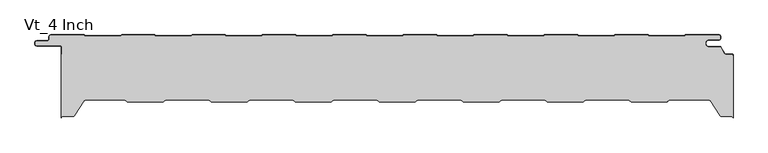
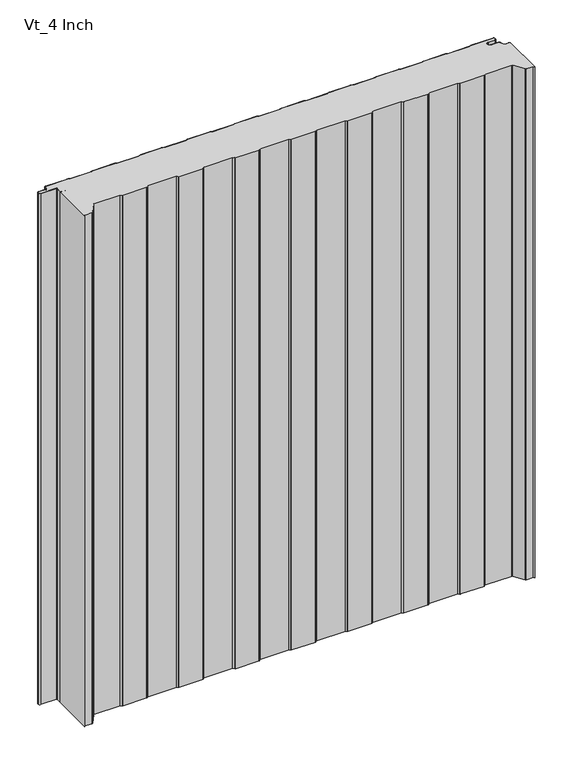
"""IFC4 building model written with IfcOpenShell, lengths in millimetres: plate geometry, KIP_R19_CP_KingSeam_Vt_Roof Panel : Vt_4 Inch."""

from ifc_helpers import new_model, si_unit, point, frame_2d, origin, origin_with_axes, place, context, project, spatial, polyline, circle_curve, trimmed, segment, composite_curve, outline, extrude, source, transform, mapped, element, save


def vt_4_inch_8830481b(model_context):
    return source(origin(), model_context, "Body", "SweptSolid", [
        extrude(outline(composite_curve([segment(trimmed(circle_curve(frame_2d((26.875, -100.1000006)), 1.4999999), [point((27.7535266, -101.3158093))], [point((26.875, -101.6000006))], False, "CARTESIAN"), True, "CONTINUOUS"), segment(polyline([(26.875, -101.6000006), (-26.875, -101.6000006)]), True, "CONTINUOUS"), segment(trimmed(circle_curve(frame_2d((-26.875, -100.1000005)), 1.5000001), [point((-26.875, -101.6000006))], [point((-27.7535268, -101.3158092))], False, "CARTESIAN"), True, "CONTINUOUS"), segment(polyline([(-27.7535268, -101.3158092), (-31.2132216, -98.8158809), (-95.786778, -98.8158809), (-99.2464733, -101.3158093)]), True, "CONTINUOUS"), segment(trimmed(circle_curve(frame_2d((-100.125, -100.1000006)), 1.4999999), [point((-99.2464733, -101.3158093))], [point((-100.125, -101.6000006))], False, "CARTESIAN"), True, "CONTINUOUS"), segment(polyline([(-100.125, -101.6000006), (-153.875, -101.6000006)]), True, "CONTINUOUS"), segment(trimmed(circle_curve(frame_2d((-153.875, -100.1000005)), 1.5000001), [point((-153.875, -101.6000006))], [point((-154.7535268, -101.3158092))], False, "CARTESIAN"), True, "CONTINUOUS"), segment(polyline([(-154.7535268, -101.3158092), (-158.2132216, -98.8158809), (-222.786778, -98.8158809), (-226.2464735, -101.3158092)]), True, "CONTINUOUS"), segment(trimmed(circle_curve(frame_2d((-227.125, -100.1000006)), 1.4999997), [point((-226.2464735, -101.3158092))], [point((-227.125, -101.6000004))], False, "CARTESIAN"), True, "CONTINUOUS"), segment(polyline([(-227.125, -101.6000004), (-280.875, -101.6000004)]), True, "CONTINUOUS"), segment(trimmed(circle_curve(frame_2d((-280.875, -100.1000003)), 1.5000001), [point((-280.875, -101.6000004))], [point((-281.7535268, -101.315809))], False, "CARTESIAN"), True, "CONTINUOUS"), segment(polyline([(-281.7535268, -101.315809), (-285.2132215, -98.8158807), (-349.7867784, -98.8158807), (-353.246473, -101.315809)]), True, "CONTINUOUS"), segment(trimmed(circle_curve(frame_2d((-354.125, -100.1000001)), 1.5000002), [point((-353.246473, -101.315809))], [point((-354.125, -101.6000003))], False, "CARTESIAN"), True, "CONTINUOUS"), segment(polyline([(-354.125, -101.6000003), (-407.8749999, -101.6000003)]), True, "CONTINUOUS"), segment(trimmed(circle_curve(frame_2d((-407.8749999, -100.1000002)), 1.5000002), [point((-407.8749999, -101.6000003))], [point((-408.7535268, -101.315809))], False, "CARTESIAN"), True, "CONTINUOUS"), segment(polyline([(-408.7535268, -101.315809), (-412.2132215, -98.8158807), (-471.3871492, -98.8158807)]), True, "CONTINUOUS"), segment(trimmed(circle_curve(frame_2d((-471.3871492, -101.3158809)), 2.5000002), [point((-471.3871492, -98.8158807))], [point((-473.4722192, -99.9365754))], True, "CARTESIAN"), True, "CONTINUOUS"), segment(polyline([(-473.4722192, -99.9365754), (-488.6756575, -122.9193254)]), True, "CONTINUOUS"), segment(trimmed(circle_curve(frame_2d((-490.3437134, -121.8158811)), 2.0), [point((-488.6756575, -122.9193254))], [point((-490.3437134, -123.8158811))], False, "CARTESIAN"), True, "CONTINUOUS"), segment(polyline([(-490.3437134, -123.8158811), (-505.9, -123.8158811)]), True, "CONTINUOUS"), segment(trimmed(circle_curve(frame_2d((-505.9, -125.9158809)), 2.0999999), [point((-505.9, -123.8158811))], [point((-507.9999998, -125.9158809))], True, "CARTESIAN"), True, "CONTINUOUS"), segment(polyline([(-507.9999998, -125.9158809), (-507.9999998, -29.9999994)]), True, "CONTINUOUS"), segment(trimmed(circle_curve(frame_2d((-505.9999998, -29.9999994)), 2.0), [point((-507.9999998, -29.9999994))], [point((-505.9999998, -31.9999994))], True, "CARTESIAN"), True, "CONTINUOUS"), segment(polyline([(-505.9999998, -31.9999994), (-498.4999998, -31.9999994), (-498.4999998, -31.1999994), (-505.9999998, -31.1999994)]), True, "CONTINUOUS"), segment(trimmed(circle_curve(frame_2d((-505.9999998, -29.6999994)), 1.5), [point((-505.9999998, -31.1999994))], [point((-507.4999998, -29.6999994))], False, "CARTESIAN"), True, "CONTINUOUS"), segment(polyline([(-507.4999998, -29.6999994), (-507.4999998, -18.4999994)]), True, "CONTINUOUS"), segment(trimmed(circle_curve(frame_2d((-509.4999998, -18.4999994)), 2.0), [point((-507.4999998, -18.4999994))], [point((-509.4999998, -16.4999994))], True, "CARTESIAN"), True, "CONTINUOUS"), segment(polyline([(-509.4999998, -16.4999994), (-544.9999998, -16.4999994)]), True, "CONTINUOUS"), segment(trimmed(circle_curve(frame_2d((-544.9999998, -13.9999994)), 2.5), [point((-544.9999998, -16.4999994))], [point((-547.4999998, -13.9999994))], False, "CARTESIAN"), True, "CONTINUOUS"), segment(polyline([(-547.4999998, -13.9999994), (-547.4999998, -11.9999994)]), True, "CONTINUOUS"), segment(trimmed(circle_curve(frame_2d((-544.9999998, -11.9999994)), 2.5), [point((-547.4999998, -11.9999994))], [point((-544.9999998, -9.4999994))], False, "CARTESIAN"), True, "CONTINUOUS"), segment(polyline([(-544.9999998, -9.4999994), (-529.2842001, -9.4999994)]), True, "CONTINUOUS"), segment(trimmed(circle_curve(frame_2d((-529.2842001, -6.4999994)), 3.0), [point((-529.2842001, -9.4999994))], [point((-526.2842001, -6.4999994))], True, "CARTESIAN"), True, "CONTINUOUS"), segment(polyline([(-526.2842001, -6.4999994), (-526.2842001, -2.9999994)]), True, "CONTINUOUS"), segment(trimmed(circle_curve(frame_2d((-524.2279507, -2.8161919)), 2.0644483), [point((-526.2842001, -2.9999994))], [point((-523.7842001, -0.7999994))], False, "CARTESIAN"), True, "CONTINUOUS"), segment(polyline([(-523.7842001, -0.7999994), (-474.0268775, -0.7999994)]), True, "CONTINUOUS"), segment(trimmed(circle_curve(frame_2d((-474.0268775, -3.1999994)), 2.4), [point((-474.0268775, -0.7999994))], [point((-473.0750562, -0.9968117))], False, "CARTESIAN"), True, "CONTINUOUS"), segment(polyline([(-473.0750562, -0.9968117), (-470.684957, -2.0293826)]), True, "CONTINUOUS"), segment(trimmed(circle_curve(frame_2d((-469.3762026, 1.0000006)), 3.3), [point((-470.684957, -2.0293826))], [point((-469.3762026, -2.2999994))], True, "CARTESIAN"), True, "CONTINUOUS"), segment(polyline([(-469.3762026, -2.2999994), (-420.9921975, -2.2999994)]), True, "CONTINUOUS"), segment(trimmed(circle_curve(frame_2d((-420.9921975, 1.0000006)), 3.3), [point((-420.9921975, -2.2999994))], [point((-419.6834432, -2.0293826))], True, "CARTESIAN"), True, "CONTINUOUS"), segment(polyline([(-419.6834432, -2.0293826), (-417.293344, -0.9968117)]), True, "CONTINUOUS"), segment(trimmed(circle_curve(frame_2d((-416.3415226, -3.1999994)), 2.4), [point((-417.293344, -0.9968117))], [point((-416.3415226, -0.7999994))], False, "CARTESIAN"), True, "CONTINUOUS"), segment(polyline([(-416.3415226, -0.7999994), (-367.4268775, -0.7999994)]), True, "CONTINUOUS"), segment(trimmed(circle_curve(frame_2d((-367.4268775, -3.1999994)), 2.4), [point((-367.4268775, -0.7999994))], [point((-366.4750562, -0.9968117))], False, "CARTESIAN"), True, "CONTINUOUS"), segment(polyline([(-366.4750562, -0.9968117), (-364.084957, -2.0293826)]), True, "CONTINUOUS"), segment(trimmed(circle_curve(frame_2d((-362.7762026, 1.0000006)), 3.3), [point((-364.084957, -2.0293826))], [point((-362.7762026, -2.2999994))], True, "CARTESIAN"), True, "CONTINUOUS"), segment(polyline([(-362.7762026, -2.2999994), (-314.3921975, -2.2999994)]), True, "CONTINUOUS"), segment(trimmed(circle_curve(frame_2d((-314.3921975, 1.0000006)), 3.3), [point((-314.3921975, -2.2999994))], [point((-313.0834432, -2.0293826))], True, "CARTESIAN"), True, "CONTINUOUS"), segment(polyline([(-313.0834432, -2.0293826), (-310.693344, -0.9968117)]), True, "CONTINUOUS"), segment(trimmed(circle_curve(frame_2d((-309.7415226, -3.1999994)), 2.4), [point((-310.693344, -0.9968117))], [point((-309.7415226, -0.7999994))], False, "CARTESIAN"), True, "CONTINUOUS"), segment(polyline([(-309.7415226, -0.7999994), (-260.8268775, -0.7999994)]), True, "CONTINUOUS"), segment(trimmed(circle_curve(frame_2d((-260.8268775, -3.1999994)), 2.4), [point((-260.8268775, -0.7999994))], [point((-259.8750562, -0.9968117))], False, "CARTESIAN"), True, "CONTINUOUS"), segment(polyline([(-259.8750562, -0.9968117), (-257.484957, -2.0293826)]), True, "CONTINUOUS"), segment(trimmed(circle_curve(frame_2d((-256.1762026, 1.0000006)), 3.3), [point((-257.484957, -2.0293826))], [point((-256.1762026, -2.2999994))], True, "CARTESIAN"), True, "CONTINUOUS"), segment(polyline([(-256.1762026, -2.2999994), (-207.7921975, -2.2999994)]), True, "CONTINUOUS"), segment(trimmed(circle_curve(frame_2d((-207.7921975, 1.0000006)), 3.3), [point((-207.7921975, -2.2999994))], [point((-206.4834432, -2.0293826))], True, "CARTESIAN"), True, "CONTINUOUS"), segment(polyline([(-206.4834432, -2.0293826), (-204.093344, -0.9968117)]), True, "CONTINUOUS"), segment(trimmed(circle_curve(frame_2d((-203.1415226, -3.1999994)), 2.4), [point((-204.093344, -0.9968117))], [point((-203.1415226, -0.7999994))], False, "CARTESIAN"), True, "CONTINUOUS"), segment(polyline([(-203.1415226, -0.7999994), (-154.2268775, -0.7999994)]), True, "CONTINUOUS"), segment(trimmed(circle_curve(frame_2d((-154.2268775, -3.1999994)), 2.4), [point((-154.2268775, -0.7999994))], [point((-153.2750562, -0.9968117))], False, "CARTESIAN"), True, "CONTINUOUS"), segment(polyline([(-153.2750562, -0.9968117), (-150.884957, -2.0293826)]), True, "CONTINUOUS"), segment(trimmed(circle_curve(frame_2d((-149.5762026, 1.0000006)), 3.3), [point((-150.884957, -2.0293826))], [point((-149.5762026, -2.2999994))], True, "CARTESIAN"), True, "CONTINUOUS"), segment(polyline([(-149.5762026, -2.2999994), (-101.1921975, -2.2999994)]), True, "CONTINUOUS"), segment(trimmed(circle_curve(frame_2d((-101.1921975, 1.0000006)), 3.3), [point((-101.1921975, -2.2999994))], [point((-99.8834432, -2.0293826))], True, "CARTESIAN"), True, "CONTINUOUS"), segment(polyline([(-99.8834432, -2.0293826), (-97.493344, -0.9968117)]), True, "CONTINUOUS"), segment(trimmed(circle_curve(frame_2d((-96.5415226, -3.1999994)), 2.4), [point((-97.493344, -0.9968117))], [point((-96.5415226, -0.7999994))], False, "CARTESIAN"), True, "CONTINUOUS"), segment(polyline([(-96.5415226, -0.7999994), (-47.6268775, -0.7999994)]), True, "CONTINUOUS"), segment(trimmed(circle_curve(frame_2d((-47.6268775, -3.1999994)), 2.4), [point((-47.6268775, -0.7999994))], [point((-46.6750562, -0.9968117))], False, "CARTESIAN"), True, "CONTINUOUS"), segment(polyline([(-46.6750562, -0.9968117), (-44.284957, -2.0293826)]), True, "CONTINUOUS"), segment(trimmed(circle_curve(frame_2d((-42.9762026, 1.0000006)), 3.3), [point((-44.284957, -2.0293826))], [point((-42.9762026, -2.2999994))], True, "CARTESIAN"), True, "CONTINUOUS"), segment(polyline([(-42.9762026, -2.2999994), (5.4078025, -2.2999994)]), True, "CONTINUOUS"), segment(trimmed(circle_curve(frame_2d((5.4078025, 1.0000006)), 3.3), [point((5.4078025, -2.2999994))], [point((6.7165568, -2.0293826))], True, "CARTESIAN"), True, "CONTINUOUS"), segment(polyline([(6.7165568, -2.0293826), (9.106656, -0.9968117)]), True, "CONTINUOUS"), segment(trimmed(circle_curve(frame_2d((10.0584774, -3.1999994)), 2.4), [point((9.106656, -0.9968117))], [point((10.0584774, -0.7999994))], False, "CARTESIAN"), True, "CONTINUOUS"), segment(polyline([(10.0584774, -0.7999994), (58.9731225, -0.7999994)]), True, "CONTINUOUS"), segment(trimmed(circle_curve(frame_2d((58.9731225, -3.1999994)), 2.4), [point((58.9731225, -0.7999994))], [point((59.9249438, -0.9968117))], False, "CARTESIAN"), True, "CONTINUOUS"), segment(polyline([(59.9249438, -0.9968117), (62.315043, -2.0293826)]), True, "CONTINUOUS"), segment(trimmed(circle_curve(frame_2d((63.6237974, 1.0000006)), 3.3), [point((62.315043, -2.0293826))], [point((63.6237974, -2.2999994))], True, "CARTESIAN"), True, "CONTINUOUS"), segment(polyline([(63.6237974, -2.2999994), (112.0078025, -2.2999994)]), True, "CONTINUOUS"), segment(trimmed(circle_curve(frame_2d((112.0078025, 1.0000006)), 3.3), [point((112.0078025, -2.2999994))], [point((113.3165568, -2.0293826))], True, "CARTESIAN"), True, "CONTINUOUS"), segment(polyline([(113.3165568, -2.0293826), (115.706656, -0.9968117)]), True, "CONTINUOUS"), segment(trimmed(circle_curve(frame_2d((116.6584774, -3.1999994)), 2.4), [point((115.706656, -0.9968117))], [point((116.6584774, -0.7999994))], False, "CARTESIAN"), True, "CONTINUOUS"), segment(polyline([(116.6584774, -0.7999994), (165.5731225, -0.7999994)]), True, "CONTINUOUS"), segment(trimmed(circle_curve(frame_2d((165.5731225, -3.1999994)), 2.4), [point((165.5731225, -0.7999994))], [point((166.5249438, -0.9968117))], False, "CARTESIAN"), True, "CONTINUOUS"), segment(polyline([(166.5249438, -0.9968117), (168.915043, -2.0293826)]), True, "CONTINUOUS"), segment(trimmed(circle_curve(frame_2d((170.2237974, 1.0000006)), 3.3), [point((168.915043, -2.0293826))], [point((170.2237974, -2.2999994))], True, "CARTESIAN"), True, "CONTINUOUS"), segment(polyline([(170.2237974, -2.2999994), (218.6078025, -2.2999994)]), True, "CONTINUOUS"), segment(trimmed(circle_curve(frame_2d((218.6078025, 1.0000006)), 3.3), [point((218.6078025, -2.2999994))], [point((219.9165568, -2.0293826))], True, "CARTESIAN"), True, "CONTINUOUS"), segment(polyline([(219.9165568, -2.0293826), (222.306656, -0.9968117)]), True, "CONTINUOUS"), segment(trimmed(circle_curve(frame_2d((223.2584774, -3.1999994)), 2.4), [point((222.306656, -0.9968117))], [point((223.2584774, -0.7999994))], False, "CARTESIAN"), True, "CONTINUOUS"), segment(polyline([(223.2584774, -0.7999994), (272.1731225, -0.7999994)]), True, "CONTINUOUS"), segment(trimmed(circle_curve(frame_2d((272.1731225, -3.1999994)), 2.4), [point((272.1731225, -0.7999994))], [point((273.1249438, -0.9968117))], False, "CARTESIAN"), True, "CONTINUOUS"), segment(polyline([(273.1249438, -0.9968117), (275.515043, -2.0293826)]), True, "CONTINUOUS"), segment(trimmed(circle_curve(frame_2d((276.8237974, 1.0000006)), 3.3), [point((275.515043, -2.0293826))], [point((276.8237974, -2.2999994))], True, "CARTESIAN"), True, "CONTINUOUS"), segment(polyline([(276.8237974, -2.2999994), (325.2078025, -2.2999994)]), True, "CONTINUOUS"), segment(trimmed(circle_curve(frame_2d((325.2078025, 1.0000006)), 3.3), [point((325.2078025, -2.2999994))], [point((326.5165568, -2.0293826))], True, "CARTESIAN"), True, "CONTINUOUS"), segment(polyline([(326.5165568, -2.0293826), (328.906656, -0.9968117)]), True, "CONTINUOUS"), segment(trimmed(circle_curve(frame_2d((329.8584774, -3.1999994)), 2.4), [point((328.906656, -0.9968117))], [point((329.8584774, -0.7999994))], False, "CARTESIAN"), True, "CONTINUOUS"), segment(polyline([(329.8584774, -0.7999994), (378.7731225, -0.7999994)]), True, "CONTINUOUS"), segment(trimmed(circle_curve(frame_2d((378.7731225, -3.1999994)), 2.4), [point((378.7731225, -0.7999994))], [point((379.7249438, -0.9968117))], False, "CARTESIAN"), True, "CONTINUOUS"), segment(polyline([(379.7249438, -0.9968117), (382.115043, -2.0293826)]), True, "CONTINUOUS"), segment(trimmed(circle_curve(frame_2d((383.4237974, 1.0000006)), 3.3), [point((382.115043, -2.0293826))], [point((383.4237974, -2.2999994))], True, "CARTESIAN"), True, "CONTINUOUS"), segment(polyline([(383.4237974, -2.2999994), (431.8078025, -2.2999994)]), True, "CONTINUOUS"), segment(trimmed(circle_curve(frame_2d((431.8078025, 1.0000006)), 3.3), [point((431.8078025, -2.2999994))], [point((433.1165568, -2.0293826))], True, "CARTESIAN"), True, "CONTINUOUS"), segment(polyline([(433.1165568, -2.0293826), (435.506656, -0.9968117)]), True, "CONTINUOUS"), segment(trimmed(circle_curve(frame_2d((436.4584774, -3.1999994)), 2.4), [point((435.506656, -0.9968117))], [point((436.4584774, -0.7999994))], False, "CARTESIAN"), True, "CONTINUOUS"), segment(polyline([(436.4584774, -0.7999994), (486.2157999, -0.7999994)]), True, "CONTINUOUS"), segment(trimmed(circle_curve(frame_2d((486.6595506, -2.8161919)), 2.0644483), [point((486.2157999, -0.7999994))], [point((488.7157999, -2.9999994))], False, "CARTESIAN"), True, "CONTINUOUS"), segment(polyline([(488.7157999, -2.9999994), (488.7157999, -4.9999994)]), True, "CONTINUOUS"), segment(trimmed(circle_curve(frame_2d((486.2157999, -4.9999994)), 2.5), [point((488.7157999, -4.9999994))], [point((486.2157999, -7.4999994))], False, "CARTESIAN"), True, "CONTINUOUS"), segment(polyline([(486.2157999, -7.4999994), (471.2500002, -7.4999994)]), True, "CONTINUOUS"), segment(trimmed(circle_curve(frame_2d((471.2500002, -12.2499994)), 4.75), [point((471.2500002, -7.4999994))], [point((466.5000002, -12.2499994))], True, "CARTESIAN"), True, "CONTINUOUS"), segment(polyline([(466.5000002, -12.2499994), (466.5000002, -13.7499994)]), True, "CONTINUOUS"), segment(trimmed(circle_curve(frame_2d((471.2500002, -13.7499994)), 4.75), [point((466.5000002, -13.7499994))], [point((471.2500002, -18.4999994))], True, "CARTESIAN"), True, "CONTINUOUS"), segment(polyline([(471.2500002, -18.4999994), (488.3513452, -18.4999994)]), True, "CONTINUOUS"), segment(trimmed(circle_curve(frame_2d((488.3513452, -19.4999994)), 1.0), [point((488.3513452, -18.4999994))], [point((489.2165838, -18.9986392))], False, "CARTESIAN"), True, "CONTINUOUS"), segment(polyline([(489.2165838, -18.9986392), (494.8780846, -28.7691573)]), True, "CONTINUOUS"), segment(trimmed(circle_curve(frame_2d((496.6085619, -27.7664368)), 2.0), [point((494.8780846, -28.7691573))], [point((496.6085619, -29.7664368))], True, "CARTESIAN"), True, "CONTINUOUS"), segment(polyline([(496.6085619, -29.7664368), (506.2, -29.7664368)]), True, "CONTINUOUS"), segment(trimmed(circle_curve(frame_2d((506.2, -30.7664368)), 1.0), [point((506.2, -29.7664368))], [point((507.2, -30.7664368))], False, "CARTESIAN"), True, "CONTINUOUS"), segment(polyline([(507.2, -30.7664368), (507.2, -31.9999994), (507.9999999, -31.9999994), (507.9999999, -125.9158808)]), True, "CONTINUOUS"), segment(trimmed(circle_curve(frame_2d((505.8999999, -125.9158808)), 2.1), [point((507.9999999, -125.9158808))], [point((505.8999999, -123.8158808))], True, "CARTESIAN"), True, "CONTINUOUS"), segment(polyline([(505.8999999, -123.8158808), (490.3437133, -123.8158808)]), True, "CONTINUOUS"), segment(trimmed(circle_curve(frame_2d((490.3437133, -121.8158808)), 2.0), [point((490.3437133, -123.8158808))], [point((488.6756574, -122.9193251))], False, "CARTESIAN"), True, "CONTINUOUS"), segment(polyline([(488.6756574, -122.9193251), (473.4722191, -99.9365754)]), True, "CONTINUOUS"), segment(trimmed(circle_curve(frame_2d((471.3871492, -101.3158808)), 2.5), [point((473.4722191, -99.9365754))], [point((471.3871492, -98.8158808))], True, "CARTESIAN"), True, "CONTINUOUS"), segment(polyline([(471.3871492, -98.8158808), (412.2132217, -98.8158808), (408.7535265, -101.3158088)]), True, "CONTINUOUS"), segment(trimmed(circle_curve(frame_2d((407.8749999, -100.1000001)), 1.4999999), [point((408.7535265, -101.3158088))], [point((407.8749999, -101.6))], False, "CARTESIAN"), True, "CONTINUOUS"), segment(polyline([(407.8749999, -101.6), (354.125, -101.6)]), True, "CONTINUOUS"), segment(trimmed(circle_curve(frame_2d((354.125, -100.0999999)), 1.5000001), [point((354.125, -101.6))], [point((353.2464731, -101.3158086))], False, "CARTESIAN"), True, "CONTINUOUS"), segment(polyline([(353.2464731, -101.3158086), (349.7867784, -98.8158803), (285.2132225, -98.8158803), (281.7535266, -101.3158091)]), True, "CONTINUOUS"), segment(trimmed(circle_curve(frame_2d((280.875, -100.1000005)), 1.4999999), [point((281.7535266, -101.3158091))], [point((280.875, -101.6000004))], False, "CARTESIAN"), True, "CONTINUOUS"), segment(polyline([(280.875, -101.6000004), (227.125, -101.6000004)]), True, "CONTINUOUS"), segment(trimmed(circle_curve(frame_2d((227.125, -100.1000003)), 1.5000001), [point((227.125, -101.6000004))], [point((226.2464732, -101.315809))], False, "CARTESIAN"), True, "CONTINUOUS"), segment(polyline([(226.2464732, -101.315809), (222.7867784, -98.8158807), (158.2132215, -98.8158807), (154.7535267, -101.3158089)]), True, "CONTINUOUS"), segment(trimmed(circle_curve(frame_2d((153.875, -100.1000002)), 1.5), [point((154.7535267, -101.3158089))], [point((153.875, -101.6000002))], False, "CARTESIAN"), True, "CONTINUOUS"), segment(polyline([(153.875, -101.6000002), (100.125, -101.6000003)]), True, "CONTINUOUS"), segment(trimmed(circle_curve(frame_2d((100.125, -100.1000003)), 1.4999999), [point((100.125, -101.6000003))], [point((99.2464733, -101.315809))], False, "CARTESIAN"), True, "CONTINUOUS"), segment(polyline([(99.2464733, -101.315809), (95.7867784, -98.8158809), (31.213222, -98.8158809), (27.7535266, -101.3158093)]), True, "CONTINUOUS")], self_intersect=False)), origin_with_axes(), (0.0, 0.0, 1.0), 1219.2),
        extrude(outline(composite_curve([segment(trimmed(circle_curve(frame_2d((-506.0157998, -30.0)), 2.0), [point((-506.0157998, -32.0))], [point((-508.0157998, -30.0))], False, "CARTESIAN"), True, "CONTINUOUS"), segment(polyline([(-508.0157998, -30.0), (-508.0157998, -18.5)]), True, "CONTINUOUS"), segment(trimmed(circle_curve(frame_2d((-509.5157998, -18.5)), 1.5), [point((-508.0157998, -18.5))], [point((-509.5157998, -17.0))], True, "CARTESIAN"), True, "CONTINUOUS"), segment(polyline([(-509.5157998, -17.0), (-545.0157998, -17.0)]), True, "CONTINUOUS"), segment(trimmed(circle_curve(frame_2d((-545.0157998, -14.0)), 3.0), [point((-545.0157998, -17.0))], [point((-548.0157998, -14.0))], False, "CARTESIAN"), True, "CONTINUOUS"), segment(polyline([(-548.0157998, -14.0), (-548.0157998, -12.0)]), True, "CONTINUOUS"), segment(trimmed(circle_curve(frame_2d((-545.0157998, -12.0)), 3.0), [point((-548.0157998, -12.0))], [point((-545.0157998, -9.0))], False, "CARTESIAN"), True, "CONTINUOUS"), segment(polyline([(-545.0157998, -9.0), (-529.3, -9.0)]), True, "CONTINUOUS"), segment(trimmed(circle_curve(frame_2d((-529.3, -6.5)), 2.5), [point((-529.3, -9.0))], [point((-526.8, -6.5))], True, "CARTESIAN"), True, "CONTINUOUS"), segment(polyline([(-526.8, -6.5), (-526.8, -3.0)]), True, "CONTINUOUS"), segment(trimmed(circle_curve(frame_2d((-523.8, -3.0)), 3.0), [point((-526.8, -3.0))], [point((-523.8, 0.0))], False, "CARTESIAN"), True, "CONTINUOUS"), segment(polyline([(-523.8, 0.0), (-474.0426774, 0.0)]), True, "CONTINUOUS"), segment(trimmed(circle_curve(frame_2d((-474.0426774, -3.2)), 3.2), [point((-474.0426774, 0.0))], [point((-472.7735823, -0.2624164))], False, "CARTESIAN"), True, "CONTINUOUS"), segment(polyline([(-472.7735823, -0.2624164), (-470.3834831, -1.2949872)]), True, "CONTINUOUS"), segment(trimmed(circle_curve(frame_2d((-469.3920026, 1.0)), 2.5), [point((-470.3834831, -1.2949872))], [point((-469.3920026, -1.5))], True, "CARTESIAN"), True, "CONTINUOUS"), segment(polyline([(-469.3920026, -1.5), (-421.0079974, -1.5)]), True, "CONTINUOUS"), segment(trimmed(circle_curve(frame_2d((-421.0079974, 1.0)), 2.5), [point((-421.0079974, -1.5))], [point((-420.0165169, -1.2949872))], True, "CARTESIAN"), True, "CONTINUOUS"), segment(polyline([(-420.0165169, -1.2949872), (-417.6264177, -0.2624164)]), True, "CONTINUOUS"), segment(trimmed(circle_curve(frame_2d((-416.3573226, -3.2)), 3.2), [point((-417.6264177, -0.2624164))], [point((-416.3573226, 0.0))], False, "CARTESIAN"), True, "CONTINUOUS"), segment(polyline([(-416.3573226, 0.0), (-367.4426774, 0.0)]), True, "CONTINUOUS"), segment(trimmed(circle_curve(frame_2d((-367.4426774, -3.2)), 3.2), [point((-367.4426774, 0.0))], [point((-366.1735823, -0.2624164))], False, "CARTESIAN"), True, "CONTINUOUS"), segment(polyline([(-366.1735823, -0.2624164), (-363.7834831, -1.2949872)]), True, "CONTINUOUS"), segment(trimmed(circle_curve(frame_2d((-362.7920026, 1.0)), 2.5), [point((-363.7834831, -1.2949872))], [point((-362.7920026, -1.5))], True, "CARTESIAN"), True, "CONTINUOUS"), segment(polyline([(-362.7920026, -1.5), (-314.4079974, -1.5)]), True, "CONTINUOUS"), segment(trimmed(circle_curve(frame_2d((-314.4079974, 1.0)), 2.5), [point((-314.4079974, -1.5))], [point((-313.4165169, -1.2949872))], True, "CARTESIAN"), True, "CONTINUOUS"), segment(polyline([(-313.4165169, -1.2949872), (-311.0264177, -0.2624164)]), True, "CONTINUOUS"), segment(trimmed(circle_curve(frame_2d((-309.7573226, -3.2)), 3.2), [point((-311.0264177, -0.2624164))], [point((-309.7573226, 0.0))], False, "CARTESIAN"), True, "CONTINUOUS"), segment(polyline([(-309.7573226, 0.0), (-260.8426774, 0.0)]), True, "CONTINUOUS"), segment(trimmed(circle_curve(frame_2d((-260.8426774, -3.2)), 3.2), [point((-260.8426774, 0.0))], [point((-259.5735823, -0.2624164))], False, "CARTESIAN"), True, "CONTINUOUS"), segment(polyline([(-259.5735823, -0.2624164), (-257.1834831, -1.2949872)]), True, "CONTINUOUS"), segment(trimmed(circle_curve(frame_2d((-256.1920026, 1.0)), 2.5), [point((-257.1834831, -1.2949872))], [point((-256.1920026, -1.5))], True, "CARTESIAN"), True, "CONTINUOUS"), segment(polyline([(-256.1920026, -1.5), (-207.8079974, -1.5)]), True, "CONTINUOUS"), segment(trimmed(circle_curve(frame_2d((-207.8079974, 1.0)), 2.5), [point((-207.8079974, -1.5))], [point((-206.8165169, -1.2949872))], True, "CARTESIAN"), True, "CONTINUOUS"), segment(polyline([(-206.8165169, -1.2949872), (-204.4264177, -0.2624164)]), True, "CONTINUOUS"), segment(trimmed(circle_curve(frame_2d((-203.1573226, -3.2)), 3.2), [point((-204.4264177, -0.2624164))], [point((-203.1573226, 0.0))], False, "CARTESIAN"), True, "CONTINUOUS"), segment(polyline([(-203.1573226, 0.0), (-154.2426774, 0.0)]), True, "CONTINUOUS"), segment(trimmed(circle_curve(frame_2d((-154.2426774, -3.2)), 3.2), [point((-154.2426774, 0.0))], [point((-152.9735823, -0.2624164))], False, "CARTESIAN"), True, "CONTINUOUS"), segment(polyline([(-152.9735823, -0.2624164), (-150.5834831, -1.2949872)]), True, "CONTINUOUS"), segment(trimmed(circle_curve(frame_2d((-149.5920026, 1.0)), 2.5), [point((-150.5834831, -1.2949872))], [point((-149.5920026, -1.5))], True, "CARTESIAN"), True, "CONTINUOUS"), segment(polyline([(-149.5920026, -1.5), (-101.2079974, -1.5)]), True, "CONTINUOUS"), segment(trimmed(circle_curve(frame_2d((-101.2079974, 1.0)), 2.5), [point((-101.2079974, -1.5))], [point((-100.2165169, -1.2949872))], True, "CARTESIAN"), True, "CONTINUOUS"), segment(polyline([(-100.2165169, -1.2949872), (-97.8264177, -0.2624164)]), True, "CONTINUOUS"), segment(trimmed(circle_curve(frame_2d((-96.5573226, -3.2)), 3.2), [point((-97.8264177, -0.2624164))], [point((-96.5573226, 0.0))], False, "CARTESIAN"), True, "CONTINUOUS"), segment(polyline([(-96.5573226, 0.0), (-47.6426774, 0.0)]), True, "CONTINUOUS"), segment(trimmed(circle_curve(frame_2d((-47.6426774, -3.2)), 3.2), [point((-47.6426774, 0.0))], [point((-46.3735823, -0.2624164))], False, "CARTESIAN"), True, "CONTINUOUS"), segment(polyline([(-46.3735823, -0.2624164), (-43.9834831, -1.2949872)]), True, "CONTINUOUS"), segment(trimmed(circle_curve(frame_2d((-42.9920026, 1.0)), 2.5), [point((-43.9834831, -1.2949872))], [point((-42.9920026, -1.5))], True, "CARTESIAN"), True, "CONTINUOUS"), segment(polyline([(-42.9920026, -1.5), (5.3920026, -1.5)]), True, "CONTINUOUS"), segment(trimmed(circle_curve(frame_2d((5.3920026, 1.0)), 2.5), [point((5.3920026, -1.5))], [point((6.3834831, -1.2949872))], True, "CARTESIAN"), True, "CONTINUOUS"), segment(polyline([(6.3834831, -1.2949872), (8.7735823, -0.2624164)]), True, "CONTINUOUS"), segment(trimmed(circle_curve(frame_2d((10.0426774, -3.2)), 3.2), [point((8.7735823, -0.2624164))], [point((10.0426774, 0.0))], False, "CARTESIAN"), True, "CONTINUOUS"), segment(polyline([(10.0426774, 0.0), (58.9573226, 0.0)]), True, "CONTINUOUS"), segment(trimmed(circle_curve(frame_2d((58.9573226, -3.2)), 3.2), [point((58.9573226, 0.0))], [point((60.2264177, -0.2624164))], False, "CARTESIAN"), True, "CONTINUOUS"), segment(polyline([(60.2264177, -0.2624164), (62.6165169, -1.2949872)]), True, "CONTINUOUS"), segment(trimmed(circle_curve(frame_2d((63.6079974, 1.0)), 2.5), [point((62.6165169, -1.2949872))], [point((63.6079974, -1.5))], True, "CARTESIAN"), True, "CONTINUOUS"), segment(polyline([(63.6079974, -1.5), (111.9920026, -1.5)]), True, "CONTINUOUS"), segment(trimmed(circle_curve(frame_2d((111.9920026, 1.0)), 2.5), [point((111.9920026, -1.5))], [point((112.9834831, -1.2949872))], True, "CARTESIAN"), True, "CONTINUOUS"), segment(polyline([(112.9834831, -1.2949872), (115.3735823, -0.2624164)]), True, "CONTINUOUS"), segment(trimmed(circle_curve(frame_2d((116.6426774, -3.2)), 3.2), [point((115.3735823, -0.2624164))], [point((116.6426774, 0.0))], False, "CARTESIAN"), True, "CONTINUOUS"), segment(polyline([(116.6426774, 0.0), (165.5573226, 0.0)]), True, "CONTINUOUS"), segment(trimmed(circle_curve(frame_2d((165.5573226, -3.2)), 3.2), [point((165.5573226, 0.0))], [point((166.8264177, -0.2624164))], False, "CARTESIAN"), True, "CONTINUOUS"), segment(polyline([(166.8264177, -0.2624164), (169.2165169, -1.2949872)]), True, "CONTINUOUS"), segment(trimmed(circle_curve(frame_2d((170.2079974, 1.0)), 2.5), [point((169.2165169, -1.2949872))], [point((170.2079974, -1.5))], True, "CARTESIAN"), True, "CONTINUOUS"), segment(polyline([(170.2079974, -1.5), (218.5920026, -1.5)]), True, "CONTINUOUS"), segment(trimmed(circle_curve(frame_2d((218.5920026, 1.0)), 2.5), [point((218.5920026, -1.5))], [point((219.5834831, -1.2949872))], True, "CARTESIAN"), True, "CONTINUOUS"), segment(polyline([(219.5834831, -1.2949872), (221.9735823, -0.2624164)]), True, "CONTINUOUS"), segment(trimmed(circle_curve(frame_2d((223.2426774, -3.2)), 3.2), [point((221.9735823, -0.2624164))], [point((223.2426774, 0.0))], False, "CARTESIAN"), True, "CONTINUOUS"), segment(polyline([(223.2426774, 0.0), (272.1573226, 0.0)]), True, "CONTINUOUS"), segment(trimmed(circle_curve(frame_2d((272.1573226, -3.2)), 3.2), [point((272.1573226, 0.0))], [point((273.4264177, -0.2624164))], False, "CARTESIAN"), True, "CONTINUOUS"), segment(polyline([(273.4264177, -0.2624164), (275.8165169, -1.2949872)]), True, "CONTINUOUS"), segment(trimmed(circle_curve(frame_2d((276.8079974, 1.0)), 2.5), [point((275.8165169, -1.2949872))], [point((276.8079974, -1.5))], True, "CARTESIAN"), True, "CONTINUOUS"), segment(polyline([(276.8079974, -1.5), (325.1920026, -1.5)]), True, "CONTINUOUS"), segment(trimmed(circle_curve(frame_2d((325.1920026, 1.0)), 2.5), [point((325.1920026, -1.5))], [point((326.1834831, -1.2949872))], True, "CARTESIAN"), True, "CONTINUOUS"), segment(polyline([(326.1834831, -1.2949872), (328.5735823, -0.2624164)]), True, "CONTINUOUS"), segment(trimmed(circle_curve(frame_2d((329.8426774, -3.2)), 3.2), [point((328.5735823, -0.2624164))], [point((329.8426774, 0.0))], False, "CARTESIAN"), True, "CONTINUOUS"), segment(polyline([(329.8426774, 0.0), (378.7573226, 0.0)]), True, "CONTINUOUS"), segment(trimmed(circle_curve(frame_2d((378.7573226, -3.2)), 3.2), [point((378.7573226, 0.0))], [point((380.0264177, -0.2624164))], False, "CARTESIAN"), True, "CONTINUOUS"), segment(polyline([(380.0264177, -0.2624164), (382.4165169, -1.2949872)]), True, "CONTINUOUS"), segment(trimmed(circle_curve(frame_2d((383.4079974, 1.0)), 2.5), [point((382.4165169, -1.2949872))], [point((383.4079974, -1.5))], True, "CARTESIAN"), True, "CONTINUOUS"), segment(polyline([(383.4079974, -1.5), (431.7920026, -1.5)]), True, "CONTINUOUS"), segment(trimmed(circle_curve(frame_2d((431.7920026, 1.0)), 2.5), [point((431.7920026, -1.5))], [point((432.7834831, -1.2949872))], True, "CARTESIAN"), True, "CONTINUOUS"), segment(polyline([(432.7834831, -1.2949872), (435.1735823, -0.2624164)]), True, "CONTINUOUS"), segment(trimmed(circle_curve(frame_2d((436.4426774, -3.2)), 3.2), [point((435.1735823, -0.2624164))], [point((436.4426774, 0.0))], False, "CARTESIAN"), True, "CONTINUOUS"), segment(polyline([(436.4426774, 0.0), (486.2, 0.0)]), True, "CONTINUOUS"), segment(trimmed(circle_curve(frame_2d((486.2, -3.0)), 3.0), [point((486.2, 0.0))], [point((489.2, -3.0))], False, "CARTESIAN"), True, "CONTINUOUS"), segment(polyline([(489.2, -3.0), (489.2, -5.0)]), True, "CONTINUOUS"), segment(trimmed(circle_curve(frame_2d((486.2, -5.0)), 3.0), [point((489.2, -5.0))], [point((486.2, -8.0))], False, "CARTESIAN"), True, "CONTINUOUS"), segment(polyline([(486.2, -8.0), (471.2342002, -8.0)]), True, "CONTINUOUS"), segment(trimmed(circle_curve(frame_2d((471.2342002, -12.25)), 4.25), [point((471.2342002, -8.0))], [point((466.9842002, -12.25))], True, "CARTESIAN"), True, "CONTINUOUS"), segment(polyline([(466.9842002, -12.25), (466.9842002, -13.75)]), True, "CONTINUOUS"), segment(trimmed(circle_curve(frame_2d((471.2342002, -13.75)), 4.25), [point((466.9842002, -13.75))], [point((471.2342002, -18.0))], True, "CARTESIAN"), True, "CONTINUOUS"), segment(polyline([(471.2342002, -18.0), (488.3355453, -18.0)]), True, "CONTINUOUS"), segment(trimmed(circle_curve(frame_2d((488.3355453, -19.5)), 1.5), [point((488.3355453, -18.0))], [point((489.6334032, -18.7479596))], False, "CARTESIAN"), True, "CONTINUOUS"), segment(polyline([(489.6334032, -18.7479596), (495.294904, -28.5184777)]), True, "CONTINUOUS"), segment(trimmed(circle_curve(frame_2d((496.592762, -27.7664374)), 1.5), [point((495.294904, -28.5184777))], [point((496.592762, -29.2664374))], True, "CARTESIAN"), True, "CONTINUOUS"), segment(polyline([(496.592762, -29.2664374), (506.4842001, -29.2664374)]), True, "CONTINUOUS"), segment(trimmed(circle_curve(frame_2d((506.4842001, -30.7664374)), 1.5), [point((506.4842001, -29.2664374))], [point((507.9842001, -30.7664374))], False, "CARTESIAN"), True, "CONTINUOUS"), segment(polyline([(507.9842001, -30.7664374), (507.9842001, -32.0), (507.1842001, -32.0), (507.1842001, -30.7664374)]), True, "CONTINUOUS"), segment(trimmed(circle_curve(frame_2d((506.1842001, -30.7664374)), 1.0), [point((507.1842001, -30.7664374))], [point((506.1842001, -29.7664374))], True, "CARTESIAN"), True, "CONTINUOUS"), segment(polyline([(506.1842001, -29.7664374), (496.592762, -29.7664374)]), True, "CONTINUOUS"), segment(trimmed(circle_curve(frame_2d((496.592762, -27.7664374)), 2.0), [point((496.592762, -29.7664374))], [point((494.8622847, -28.7691578))], False, "CARTESIAN"), True, "CONTINUOUS"), segment(polyline([(494.8622847, -28.7691578), (489.2007839, -18.9986398)]), True, "CONTINUOUS"), segment(trimmed(circle_curve(frame_2d((488.3355453, -19.5)), 1.0), [point((489.2007839, -18.9986398))], [point((488.3355453, -18.5))], True, "CARTESIAN"), True, "CONTINUOUS"), segment(polyline([(488.3355453, -18.5), (471.2342002, -18.5)]), True, "CONTINUOUS"), segment(trimmed(circle_curve(frame_2d((471.2342002, -13.75)), 4.75), [point((471.2342002, -18.5))], [point((466.4842002, -13.75))], False, "CARTESIAN"), True, "CONTINUOUS"), segment(polyline([(466.4842002, -13.75), (466.4842002, -12.25)]), True, "CONTINUOUS"), segment(trimmed(circle_curve(frame_2d((471.2342002, -12.25)), 4.75), [point((466.4842002, -12.25))], [point((471.2342002, -7.5))], False, "CARTESIAN"), True, "CONTINUOUS"), segment(polyline([(471.2342002, -7.5), (486.2, -7.5)]), True, "CONTINUOUS"), segment(trimmed(circle_curve(frame_2d((486.2, -5.0)), 2.5), [point((486.2, -7.5))], [point((488.7, -5.0))], True, "CARTESIAN"), True, "CONTINUOUS"), segment(polyline([(488.7, -5.0), (488.7, -3.0)]), True, "CONTINUOUS"), segment(trimmed(circle_curve(frame_2d((486.6437506, -2.8161925)), 2.0644483), [point((488.7, -3.0))], [point((486.2, -0.8))], True, "CARTESIAN"), True, "CONTINUOUS"), segment(polyline([(486.2, -0.8), (436.4426774, -0.8)]), True, "CONTINUOUS"), segment(trimmed(circle_curve(frame_2d((436.4426774, -3.2)), 2.4), [point((436.4426774, -0.8))], [point((435.4908561, -0.9968123))], True, "CARTESIAN"), True, "CONTINUOUS"), segment(polyline([(435.4908561, -0.9968123), (433.1007569, -2.0293831)]), True, "CONTINUOUS"), segment(trimmed(circle_curve(frame_2d((431.7920026, 1.0)), 3.3), [point((433.1007569, -2.0293831))], [point((431.7920026, -2.3))], False, "CARTESIAN"), True, "CONTINUOUS"), segment(polyline([(431.7920026, -2.3), (383.4079974, -2.3)]), True, "CONTINUOUS"), segment(trimmed(circle_curve(frame_2d((383.4079974, 1.0)), 3.3), [point((383.4079974, -2.3))], [point((382.0992431, -2.0293831))], False, "CARTESIAN"), True, "CONTINUOUS"), segment(polyline([(382.0992431, -2.0293831), (379.7091439, -0.9968123)]), True, "CONTINUOUS"), segment(trimmed(circle_curve(frame_2d((378.7573226, -3.2)), 2.4), [point((379.7091439, -0.9968123))], [point((378.7573226, -0.8))], True, "CARTESIAN"), True, "CONTINUOUS"), segment(polyline([(378.7573226, -0.8), (329.8426774, -0.8)]), True, "CONTINUOUS"), segment(trimmed(circle_curve(frame_2d((329.8426774, -3.2)), 2.4), [point((329.8426774, -0.8))], [point((328.8908561, -0.9968123))], True, "CARTESIAN"), True, "CONTINUOUS"), segment(polyline([(328.8908561, -0.9968123), (326.5007569, -2.0293831)]), True, "CONTINUOUS"), segment(trimmed(circle_curve(frame_2d((325.1920026, 1.0)), 3.3), [point((326.5007569, -2.0293831))], [point((325.1920026, -2.3))], False, "CARTESIAN"), True, "CONTINUOUS"), segment(polyline([(325.1920026, -2.3), (276.8079974, -2.3)]), True, "CONTINUOUS"), segment(trimmed(circle_curve(frame_2d((276.8079974, 1.0)), 3.3), [point((276.8079974, -2.3))], [point((275.4992431, -2.0293831))], False, "CARTESIAN"), True, "CONTINUOUS"), segment(polyline([(275.4992431, -2.0293831), (273.1091439, -0.9968123)]), True, "CONTINUOUS"), segment(trimmed(circle_curve(frame_2d((272.1573226, -3.2)), 2.4), [point((273.1091439, -0.9968123))], [point((272.1573226, -0.8))], True, "CARTESIAN"), True, "CONTINUOUS"), segment(polyline([(272.1573226, -0.8), (223.2426774, -0.8)]), True, "CONTINUOUS"), segment(trimmed(circle_curve(frame_2d((223.2426774, -3.2)), 2.4), [point((223.2426774, -0.8))], [point((222.2908561, -0.9968123))], True, "CARTESIAN"), True, "CONTINUOUS"), segment(polyline([(222.2908561, -0.9968123), (219.9007569, -2.0293831)]), True, "CONTINUOUS"), segment(trimmed(circle_curve(frame_2d((218.5920026, 1.0)), 3.3), [point((219.9007569, -2.0293831))], [point((218.5920026, -2.3))], False, "CARTESIAN"), True, "CONTINUOUS"), segment(polyline([(218.5920026, -2.3), (170.2079974, -2.3)]), True, "CONTINUOUS"), segment(trimmed(circle_curve(frame_2d((170.2079974, 1.0)), 3.3), [point((170.2079974, -2.3))], [point((168.8992431, -2.0293831))], False, "CARTESIAN"), True, "CONTINUOUS"), segment(polyline([(168.8992431, -2.0293831), (166.5091439, -0.9968123)]), True, "CONTINUOUS"), segment(trimmed(circle_curve(frame_2d((165.5573226, -3.2)), 2.4), [point((166.5091439, -0.9968123))], [point((165.5573226, -0.8))], True, "CARTESIAN"), True, "CONTINUOUS"), segment(polyline([(165.5573226, -0.8), (116.6426774, -0.8)]), True, "CONTINUOUS"), segment(trimmed(circle_curve(frame_2d((116.6426774, -3.2)), 2.4), [point((116.6426774, -0.8))], [point((115.6908561, -0.9968123))], True, "CARTESIAN"), True, "CONTINUOUS"), segment(polyline([(115.6908561, -0.9968123), (113.3007569, -2.0293831)]), True, "CONTINUOUS"), segment(trimmed(circle_curve(frame_2d((111.9920026, 1.0)), 3.3), [point((113.3007569, -2.0293831))], [point((111.9920026, -2.3))], False, "CARTESIAN"), True, "CONTINUOUS"), segment(polyline([(111.9920026, -2.3), (63.6079974, -2.3)]), True, "CONTINUOUS"), segment(trimmed(circle_curve(frame_2d((63.6079974, 1.0)), 3.3), [point((63.6079974, -2.3))], [point((62.2992431, -2.0293831))], False, "CARTESIAN"), True, "CONTINUOUS"), segment(polyline([(62.2992431, -2.0293831), (59.9091439, -0.9968123)]), True, "CONTINUOUS"), segment(trimmed(circle_curve(frame_2d((58.9573226, -3.2)), 2.4), [point((59.9091439, -0.9968123))], [point((58.9573226, -0.8))], True, "CARTESIAN"), True, "CONTINUOUS"), segment(polyline([(58.9573226, -0.8), (10.0426774, -0.8)]), True, "CONTINUOUS"), segment(trimmed(circle_curve(frame_2d((10.0426774, -3.2)), 2.4), [point((10.0426774, -0.8))], [point((9.0908561, -0.9968123))], True, "CARTESIAN"), True, "CONTINUOUS"), segment(polyline([(9.0908561, -0.9968123), (6.7007569, -2.0293831)]), True, "CONTINUOUS"), segment(trimmed(circle_curve(frame_2d((5.3920026, 1.0)), 3.3), [point((6.7007569, -2.0293831))], [point((5.3920026, -2.3))], False, "CARTESIAN"), True, "CONTINUOUS"), segment(polyline([(5.3920026, -2.3), (-42.9920026, -2.3)]), True, "CONTINUOUS"), segment(trimmed(circle_curve(frame_2d((-42.9920026, 1.0)), 3.3), [point((-42.9920026, -2.3))], [point((-44.3007569, -2.0293831))], False, "CARTESIAN"), True, "CONTINUOUS"), segment(polyline([(-44.3007569, -2.0293831), (-46.6908561, -0.9968123)]), True, "CONTINUOUS"), segment(trimmed(circle_curve(frame_2d((-47.6426774, -3.2)), 2.4), [point((-46.6908561, -0.9968123))], [point((-47.6426774, -0.8))], True, "CARTESIAN"), True, "CONTINUOUS"), segment(polyline([(-47.6426774, -0.8), (-96.5573226, -0.8)]), True, "CONTINUOUS"), segment(trimmed(circle_curve(frame_2d((-96.5573226, -3.2)), 2.4), [point((-96.5573226, -0.8))], [point((-97.5091439, -0.9968123))], True, "CARTESIAN"), True, "CONTINUOUS"), segment(polyline([(-97.5091439, -0.9968123), (-99.8992431, -2.0293831)]), True, "CONTINUOUS"), segment(trimmed(circle_curve(frame_2d((-101.2079974, 1.0)), 3.3), [point((-99.8992431, -2.0293831))], [point((-101.2079974, -2.3))], False, "CARTESIAN"), True, "CONTINUOUS"), segment(polyline([(-101.2079974, -2.3), (-149.5920026, -2.3)]), True, "CONTINUOUS"), segment(trimmed(circle_curve(frame_2d((-149.5920026, 1.0)), 3.3), [point((-149.5920026, -2.3))], [point((-150.9007569, -2.0293831))], False, "CARTESIAN"), True, "CONTINUOUS"), segment(polyline([(-150.9007569, -2.0293831), (-153.2908561, -0.9968123)]), True, "CONTINUOUS"), segment(trimmed(circle_curve(frame_2d((-154.2426774, -3.2)), 2.4), [point((-153.2908561, -0.9968123))], [point((-154.2426774, -0.8))], True, "CARTESIAN"), True, "CONTINUOUS"), segment(polyline([(-154.2426774, -0.8), (-203.1573226, -0.8)]), True, "CONTINUOUS"), segment(trimmed(circle_curve(frame_2d((-203.1573226, -3.2)), 2.4), [point((-203.1573226, -0.8))], [point((-204.1091439, -0.9968123))], True, "CARTESIAN"), True, "CONTINUOUS"), segment(polyline([(-204.1091439, -0.9968123), (-206.4992431, -2.0293831)]), True, "CONTINUOUS"), segment(trimmed(circle_curve(frame_2d((-207.8079974, 1.0)), 3.3), [point((-206.4992431, -2.0293831))], [point((-207.8079974, -2.3))], False, "CARTESIAN"), True, "CONTINUOUS"), segment(polyline([(-207.8079974, -2.3), (-256.1920026, -2.3)]), True, "CONTINUOUS"), segment(trimmed(circle_curve(frame_2d((-256.1920026, 1.0)), 3.3), [point((-256.1920026, -2.3))], [point((-257.5007569, -2.0293831))], False, "CARTESIAN"), True, "CONTINUOUS"), segment(polyline([(-257.5007569, -2.0293831), (-259.8908561, -0.9968123)]), True, "CONTINUOUS"), segment(trimmed(circle_curve(frame_2d((-260.8426774, -3.2)), 2.4), [point((-259.8908561, -0.9968123))], [point((-260.8426774, -0.8))], True, "CARTESIAN"), True, "CONTINUOUS"), segment(polyline([(-260.8426774, -0.8), (-309.7573226, -0.8)]), True, "CONTINUOUS"), segment(trimmed(circle_curve(frame_2d((-309.7573226, -3.2)), 2.4), [point((-309.7573226, -0.8))], [point((-310.7091439, -0.9968123))], True, "CARTESIAN"), True, "CONTINUOUS"), segment(polyline([(-310.7091439, -0.9968123), (-313.0992431, -2.0293831)]), True, "CONTINUOUS"), segment(trimmed(circle_curve(frame_2d((-314.4079974, 1.0)), 3.3), [point((-313.0992431, -2.0293831))], [point((-314.4079974, -2.3))], False, "CARTESIAN"), True, "CONTINUOUS"), segment(polyline([(-314.4079974, -2.3), (-362.7920026, -2.3)]), True, "CONTINUOUS"), segment(trimmed(circle_curve(frame_2d((-362.7920026, 1.0)), 3.3), [point((-362.7920026, -2.3))], [point((-364.1007569, -2.0293831))], False, "CARTESIAN"), True, "CONTINUOUS"), segment(polyline([(-364.1007569, -2.0293831), (-366.4908561, -0.9968123)]), True, "CONTINUOUS"), segment(trimmed(circle_curve(frame_2d((-367.4426774, -3.2)), 2.4), [point((-366.4908561, -0.9968123))], [point((-367.4426774, -0.8))], True, "CARTESIAN"), True, "CONTINUOUS"), segment(polyline([(-367.4426774, -0.8), (-416.3573226, -0.8)]), True, "CONTINUOUS"), segment(trimmed(circle_curve(frame_2d((-416.3573226, -3.2)), 2.4), [point((-416.3573226, -0.8))], [point((-417.3091439, -0.9968123))], True, "CARTESIAN"), True, "CONTINUOUS"), segment(polyline([(-417.3091439, -0.9968123), (-419.6992431, -2.0293831)]), True, "CONTINUOUS"), segment(trimmed(circle_curve(frame_2d((-421.0079974, 1.0)), 3.3), [point((-419.6992431, -2.0293831))], [point((-421.0079974, -2.3))], False, "CARTESIAN"), True, "CONTINUOUS"), segment(polyline([(-421.0079974, -2.3), (-469.3920026, -2.3)]), True, "CONTINUOUS"), segment(trimmed(circle_curve(frame_2d((-469.3920026, 1.0)), 3.3), [point((-469.3920026, -2.3))], [point((-470.7007569, -2.0293831))], False, "CARTESIAN"), True, "CONTINUOUS"), segment(polyline([(-470.7007569, -2.0293831), (-473.0908561, -0.9968123)]), True, "CONTINUOUS"), segment(trimmed(circle_curve(frame_2d((-474.0426774, -3.2)), 2.4), [point((-473.0908561, -0.9968123))], [point((-474.0426774, -0.8))], True, "CARTESIAN"), True, "CONTINUOUS"), segment(polyline([(-474.0426774, -0.8), (-523.8, -0.8)]), True, "CONTINUOUS"), segment(trimmed(circle_curve(frame_2d((-524.2437506, -2.8161925)), 2.0644483), [point((-523.8, -0.8))], [point((-526.3, -3.0))], True, "CARTESIAN"), True, "CONTINUOUS"), segment(polyline([(-526.3, -3.0), (-526.3, -6.5)]), True, "CONTINUOUS"), segment(trimmed(circle_curve(frame_2d((-529.3, -6.5)), 3.0), [point((-526.3, -6.5))], [point((-529.3, -9.5))], False, "CARTESIAN"), True, "CONTINUOUS"), segment(polyline([(-529.3, -9.5), (-545.0157998, -9.5)]), True, "CONTINUOUS"), segment(trimmed(circle_curve(frame_2d((-545.0157998, -12.0)), 2.5), [point((-545.0157998, -9.5))], [point((-547.5157998, -12.0))], True, "CARTESIAN"), True, "CONTINUOUS"), segment(polyline([(-547.5157998, -12.0), (-547.5157998, -14.0)]), True, "CONTINUOUS"), segment(trimmed(circle_curve(frame_2d((-545.0157998, -14.0)), 2.5), [point((-547.5157998, -14.0))], [point((-545.0157998, -16.5))], True, "CARTESIAN"), True, "CONTINUOUS"), segment(polyline([(-545.0157998, -16.5), (-509.5157998, -16.5)]), True, "CONTINUOUS"), segment(trimmed(circle_curve(frame_2d((-509.5157998, -18.5)), 2.0), [point((-509.5157998, -16.5))], [point((-507.5157998, -18.5))], False, "CARTESIAN"), True, "CONTINUOUS"), segment(polyline([(-507.5157998, -18.5), (-507.5157998, -29.7)]), True, "CONTINUOUS"), segment(trimmed(circle_curve(frame_2d((-506.0157998, -29.7)), 1.5), [point((-507.5157998, -29.7))], [point((-506.0157998, -31.2))], True, "CARTESIAN"), True, "CONTINUOUS"), segment(polyline([(-506.0157998, -31.2), (-498.5157998, -31.2), (-498.5157998, -32.0), (-506.0157998, -32.0)]), True, "CONTINUOUS")], self_intersect=False)), origin_with_axes(), (0.0, 0.0, 1.0), 1219.2),
    ])


if __name__ == "__main__":
    model = new_model("IFC4")
    model_context = context("Model", 3, world=origin())
    ifc_project = project(units=[si_unit("LENGTHUNIT", "METRE", prefix="MILLI")], contexts=[model_context])
    site = spatial("IfcSite", under=ifc_project)
    building = spatial("IfcBuilding", under=site)
    placement = place(None, origin())
    vt_4_inch_shape = vt_4_inch_8830481b(model_context)
    element("IfcPlate", 1, ObjectType="KIP_R19_CP_KingSeam_Vt_Roof Panel : Vt_4 Inch", at=placement, inside=building, context=model_context, shape_type="MappedRepresentation", body=[
        mapped(vt_4_inch_shape, transform((0.0, 0.0, 0.0), x_axis=(1.0, 0.0, 0.0), y_axis=(0.0, 1.0, 0.0), z_axis=(0.0, 0.0, 1.0))),
    ])
    save(model, "model.ifc")
